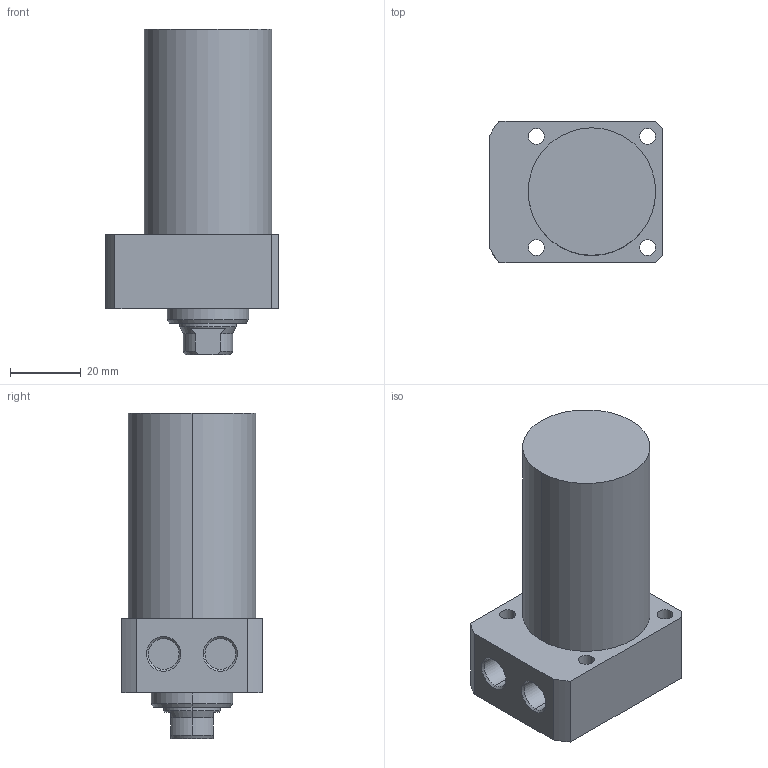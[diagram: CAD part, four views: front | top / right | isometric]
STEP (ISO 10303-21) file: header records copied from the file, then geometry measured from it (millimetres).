
FILE_DESCRIPTION (( 'STEP AP203' ), '1' );
FILE_NAME ('CLLR-036CA-050.STEP', '2019-12-20T00:33:18', ( '' ), ( '' ), 'SwSTEP 2.0', 'SolidWorks 2015', '' );
FILE_SCHEMA (( 'CONFIG_CONTROL_DESIGN' ));
Length unit declared in the file: millimetre
Products named in the file (1): CLLR-036CA-050
Bounding box: 49 x 40 x 92 mm (x, y, z)
Volume: 99740.4 mm3; surface area: 16639.4 mm2
Topology: 1 solids, 1 shells, 63 faces, 149 edges, 94 vertices
Faces by surface type: cylinder 29, plane 19, cone 15
Entity records: 1927 total; most frequent: DIRECTION 340, CARTESIAN_POINT 337, ORIENTED_EDGE 294, EDGE_CURVE 147, AXIS2_PLACEMENT_3D 137, VERTEX_POINT 94, EDGE_LOOP 79, CIRCLE 73
